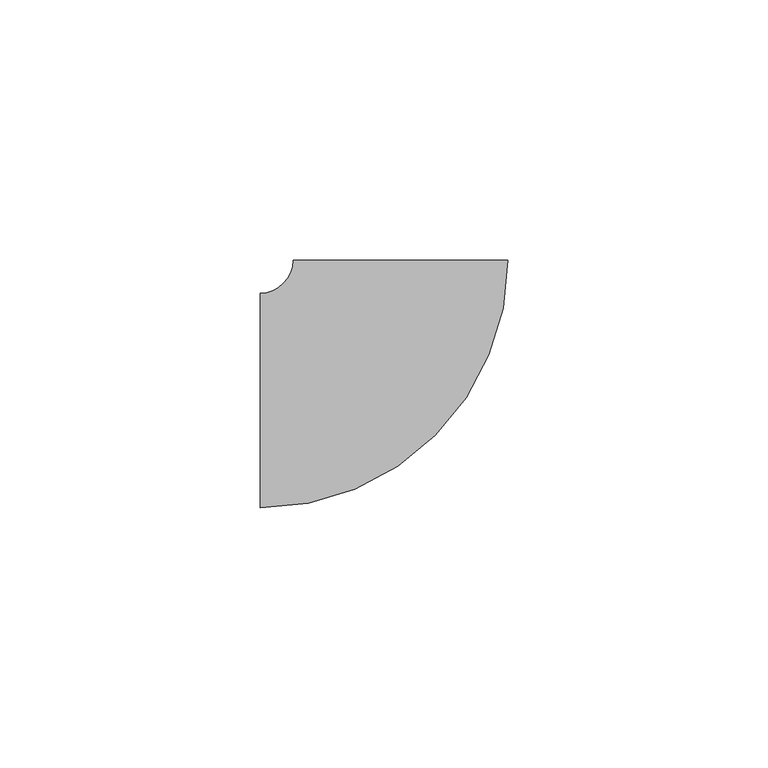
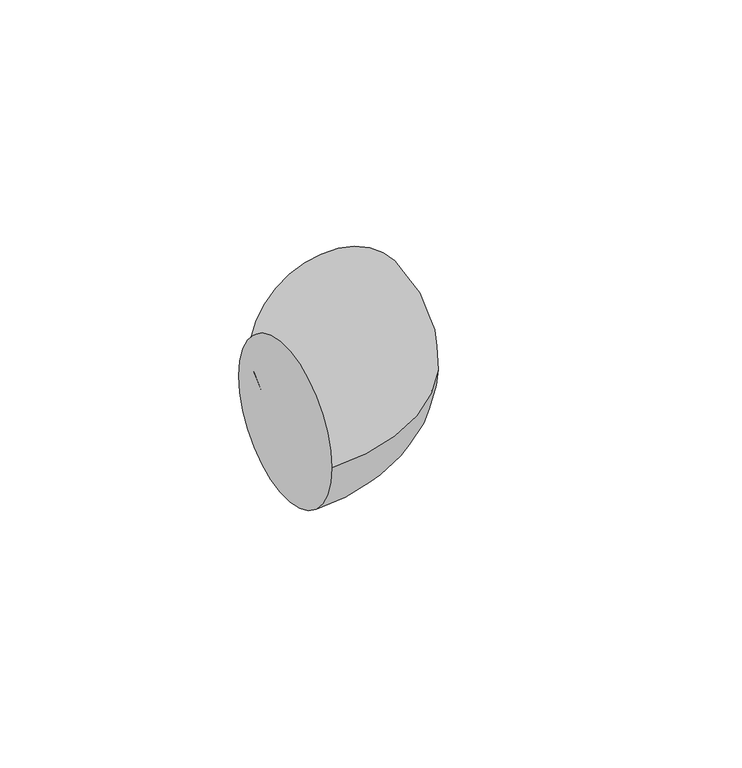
"""IFC4 building model written with IfcOpenShell, lengths in millimetres: pipe fitting geometry, M_Codo - Genérico : Estándar."""

from ifc_helpers import new_model, si_unit, point, frame, origin, place, context, project, spatial, circle_curve, ellipse_curve, trimmed, source, transform, mapped, element, save
from ifc_brep_helpers import plane_surface, revolved_surface, advanced_brep


def pipe_fitting_12bd319b(model_context):
    return source(origin(), model_context, "Body", "AdvancedBrep", [
        advanced_brep(
        [(-26.9878614, -20.6375, 0.0), (-26.9878614, 20.6375, 0.0), (20.6371386, 26.9881377, 0.0), (-20.6378614, 26.987585, 0.0)],
        [
            (0, 1, circle_curve(frame((-26.9878614, 0.0, 0.0), z_axis=(-1.0, 0.0, 0.0), x_axis=(0.0, 1.0, 0.0)), 20.6375)),
            (1, 0, circle_curve(frame((-26.9878614, 0.0, 0.0), z_axis=(-1.0, 0.0, 0.0), x_axis=(0.0, 1.0, 0.0)), 20.6375)),
            (2, 3, circle_curve(frame((-0.0003614, 26.9878614, 0.0), z_axis=(-1.3390023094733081e-05, 0.9999999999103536, 0.0), x_axis=(-0.9999999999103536, -1.3390023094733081e-05, 0.0)), 20.6375)),
            (3, 2, circle_curve(frame((-0.0003614, 26.9878614, 0.0), z_axis=(-1.3390023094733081e-05, 0.9999999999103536, 0.0), x_axis=(-0.9999999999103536, -1.3390023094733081e-05, 0.0)), 20.6375)),
            (3, 1, circle_curve(frame((-26.9878614, 26.9875, 0.0), z_axis=(0.0, 0.0, -1.0), x_axis=(0.0, -1.0, 0.0)), 6.35)),
            (0, 2, circle_curve(frame((-26.9878614, 26.9875, 0.0), z_axis=(0.0, 0.0, 1.0), x_axis=(0.0, -1.0, 0.0)), 47.625)),
        ],
        [
            plane_surface(frame((-26.9878614, 0.0, 0.0), z_axis=(-1.0, 0.0, 0.0), x_axis=(0.0, 0.0, 1.0))),
            plane_surface(frame((-0.0003614, 26.9878614, 0.0), z_axis=(-1.3390023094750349e-05, 0.9999999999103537, 0.0), x_axis=(0.0, 0.0, 1.0))),
            revolved_surface(trimmed(ellipse_curve(frame((-26.9878614, 0.0, 0.0), z_axis=(-1.0, 0.0, 0.0), x_axis=(0.0, 1.0, 0.0)), 20.6375, 20.6375), [point((-26.9878614, -20.6375, 0.0))], [point((-26.9878614, 20.6375, 0.0))], True, "CARTESIAN"), (-26.9878614, 26.9875, 0.0), (0.0, 0.0, 1.0)),
            revolved_surface(trimmed(ellipse_curve(frame((-26.9878614, 0.0, 0.0), z_axis=(-1.0, 0.0, 0.0), x_axis=(0.0, 1.0, 0.0)), 20.6375, 20.6375), [point((-26.9878614, 20.6375, 0.0))], [point((-26.9878614, -20.6375, 0.0))], True, "CARTESIAN"), (-26.9878614, 26.9875, 0.0), (0.0, 0.0, 1.0)),
        ],
        [
            (0, [[1, 2]]),
            (1, [[3, 4]]),
            (2, [[5, -1, 6, -4]]),
            (3, [[-6, -2, -5, -3]]),
        ],
    ),
    ])


if __name__ == "__main__":
    model = new_model("IFC4")
    model_context = context("Model", 3, world=origin())
    ifc_project = project(units=[si_unit("LENGTHUNIT", "METRE", prefix="MILLI")], contexts=[model_context])
    site = spatial("IfcSite", under=ifc_project)
    building = spatial("IfcBuilding", under=site)
    placement = place(None, origin())
    pipe_fitting_shape = pipe_fitting_12bd319b(model_context)
    element("IfcPipeFitting", 1, ObjectType="M_Codo - Genérico : Estándar", at=placement, inside=building, context=model_context, shape_type="MappedRepresentation", body=[
        mapped(pipe_fitting_shape, transform((0.0, 0.0, 0.0), x_axis=(1.0, 0.0, 0.0), y_axis=(0.0, 1.0, 0.0), z_axis=(0.0, 0.0, 1.0))),
    ])
    save(model, "model.ifc")
